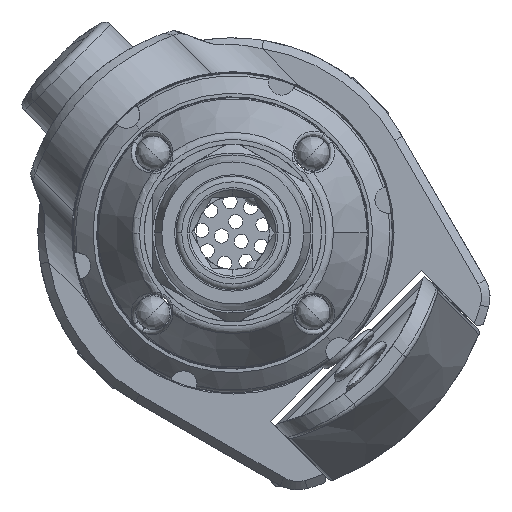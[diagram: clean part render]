
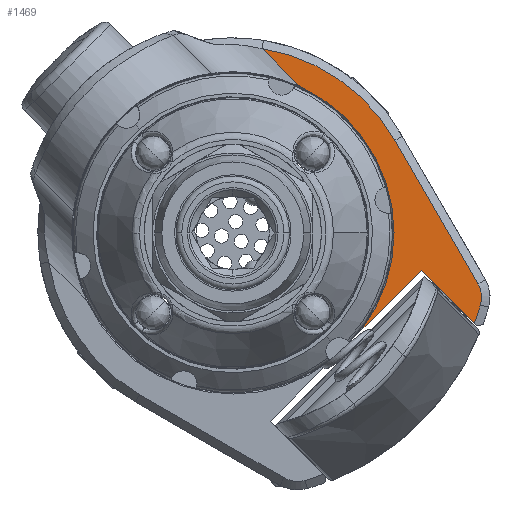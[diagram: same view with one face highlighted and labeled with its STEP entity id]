
A CAD part, left-side view. The second image highlights one B-rep face of the part: STEP entity #1469.
In plain terms, the highlighted planar face has unit normal (-1, 0, 0).
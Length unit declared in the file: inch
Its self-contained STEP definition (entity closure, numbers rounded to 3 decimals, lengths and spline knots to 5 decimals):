
#403 = VERTEX_POINT ( 'NONE', #14520 ) ;
#405 = VERTEX_POINT ( 'NONE', #14518 ) ;
#458 = AXIS2_PLACEMENT_3D ( 'NONE', #15694, #15696, #15695 ) ;
#957 = EDGE_CURVE ( 'NONE', #20558, #403, #15933, .T. ) ;
#958 = EDGE_CURVE ( 'NONE', #20555, #20554, #15937, .T. ) ;
#959 = EDGE_CURVE ( 'NONE', #20556, #20555, #4713, .T. ) ;
#960 = EDGE_CURVE ( 'NONE', #20554, #20553, #10686, .T. ) ;
#961 = EDGE_CURVE ( 'NONE', #20553, #20558, #4714, .T. ) ;
#962 = EDGE_CURVE ( 'NONE', #20570, #20556, #4715, .T. ) ;
#1469 = ADVANCED_FACE ( 'NONE', ( #7698 ), #15693, .T. ) ;
#2122 = CARTESIAN_POINT ( 'NONE',  ( 3.32101, -1.1218, -0.24366 ) ) ;
#2123 = CARTESIAN_POINT ( 'NONE',  ( 3.32101, -1.13077, -0.3177 ) ) ;
#2124 = CARTESIAN_POINT ( 'NONE',  ( 3.32101, -1.10885, -0.38363 ) ) ;
#2125 = CARTESIAN_POINT ( 'NONE',  ( 3.32101, -0.92179, -0.19671 ) ) ;
#2127 = CARTESIAN_POINT ( 'NONE',  ( 3.32101, -0.82946, 0.26225 ) ) ;
#2139 = CARTESIAN_POINT ( 'NONE',  ( 3.32101, -0.70985, -0.40881 ) ) ;
#4504 = EDGE_CURVE ( 'NONE', #403, #405, #19006, .T. ) ;
#4512 = EDGE_CURVE ( 'NONE', #405, #20570, #9471, .T. ) ;
#4713 = LINE ( 'NONE', #14411, #15936 ) ;
#4714 = LINE ( 'NONE', #14427, #15932 ) ;
#4715 = LINE ( 'NONE', #14410, #15929 ) ;
#6163 = ORIENTED_EDGE ( 'NONE', *, *, #959, .T. ) ;
#6164 = ORIENTED_EDGE ( 'NONE', *, *, #960, .T. ) ;
#6165 = ORIENTED_EDGE ( 'NONE', *, *, #958, .T. ) ;
#6166 = ORIENTED_EDGE ( 'NONE', *, *, #961, .T. ) ;
#6167 = ORIENTED_EDGE ( 'NONE', *, *, #957, .T. ) ;
#6168 = ORIENTED_EDGE ( 'NONE', *, *, #4512, .T. ) ;
#6169 = ORIENTED_EDGE ( 'NONE', *, *, #4504, .T. ) ;
#6170 = ORIENTED_EDGE ( 'NONE', *, *, #962, .T. ) ;
#6505 = EDGE_LOOP ( 'NONE', ( #6163, #6165, #6164, #6166, #6167, #6169, #6168, #6170 ) ) ;
#7698 = FACE_OUTER_BOUND ( 'NONE', #6505, .T. ) ;
#9471 = CIRCLE ( 'NONE', #9479, 0.5675 ) ;
#9476 = VECTOR ( 'NONE', #19927, 39.37008 ) ;
#9479 = AXIS2_PLACEMENT_3D ( 'NONE', #9666, #9667, #9668 ) ;
#9666 = CARTESIAN_POINT ( 'NONE',  ( 3.32101, -0.25882, -0.06438 ) ) ;
#9667 = DIRECTION ( 'NONE',  ( 1., 0., 0. ) ) ;
#9668 = DIRECTION ( 'NONE',  ( 0., -0.707, -0.707 ) ) ;
#10686 = CIRCLE ( 'NONE', #15935, 0.095 ) ;
#14348 = DIRECTION ( 'NONE',  ( 0., -0.707, -0.707 ) ) ;
#14354 = CARTESIAN_POINT ( 'NONE',  ( 3.32101, -0.25882, -0.06438 ) ) ;
#14357 = DIRECTION ( 'NONE',  ( 0., 0.5, 0.866 ) ) ;
#14362 = CARTESIAN_POINT ( 'NONE',  ( 3.32101, -1.03954, -0.29119 ) ) ;
#14387 = DIRECTION ( 'NONE',  ( 0., -0.707, -0.707 ) ) ;
#14390 = DIRECTION ( 'NONE',  ( 0., -0.707, 0.707 ) ) ;
#14392 = DIRECTION ( 'NONE',  ( -1., 0., 0. ) ) ;
#14402 = DIRECTION ( 'NONE',  ( 0., -0.707, -0.707 ) ) ;
#14403 = CARTESIAN_POINT ( 'NONE',  ( 3.32101, -0.25882, -0.06438 ) ) ;
#14405 = DIRECTION ( 'NONE',  ( -1., 0., 0. ) ) ;
#14406 = DIRECTION ( 'NONE',  ( -1., 0., 0. ) ) ;
#14410 = CARTESIAN_POINT ( 'NONE',  ( 3.32101, -0.39166, -0.72724 ) ) ;
#14411 = CARTESIAN_POINT ( 'NONE',  ( 3.32101, -0.92179, -0.19671 ) ) ;
#14424 = DIRECTION ( 'NONE',  ( 0., -0.707, -0.707 ) ) ;
#14427 = CARTESIAN_POINT ( 'NONE',  ( 3.32101, -0.82946, 0.26225 ) ) ;
#14518 = CARTESIAN_POINT ( 'NONE',  ( 3.32101, -0.49511, 0.45159 ) ) ;
#14520 = CARTESIAN_POINT ( 'NONE',  ( 3.32101, -0.36155, 0.58504 ) ) ;
#15693 = PLANE ( 'NONE',  #458 ) ;
#15694 = CARTESIAN_POINT ( 'NONE',  ( 3.32101, -0.25882, -0.06438 ) ) ;
#15695 = DIRECTION ( 'NONE',  ( 0., -0.707, -0.707 ) ) ;
#15696 = DIRECTION ( 'NONE',  ( -1., 0., 0. ) ) ;
#15929 = VECTOR ( 'NONE', #14390, 39.37008 ) ;
#15931 = AXIS2_PLACEMENT_3D ( 'NONE', #14354, #14406, #14402 ) ;
#15932 = VECTOR ( 'NONE', #14357, 39.37008 ) ;
#15933 = CIRCLE ( 'NONE', #15931, 0.6575 ) ;
#15935 = AXIS2_PLACEMENT_3D ( 'NONE', #14362, #14392, #14387 ) ;
#15936 = VECTOR ( 'NONE', #14348, 39.37008 ) ;
#15937 = CIRCLE ( 'NONE', #15949, 0.908 ) ;
#15949 = AXIS2_PLACEMENT_3D ( 'NONE', #14403, #14405, #14424 ) ;
#19006 = LINE ( 'NONE', #19926, #9476 ) ;
#19926 = CARTESIAN_POINT ( 'NONE',  ( 3.32101, -0.63486, 0.31194 ) ) ;
#19927 = DIRECTION ( 'NONE',  ( 0., -0.707, -0.707 ) ) ;
#20553 = VERTEX_POINT ( 'NONE', #2122 ) ;
#20554 = VERTEX_POINT ( 'NONE', #2123 ) ;
#20555 = VERTEX_POINT ( 'NONE', #2124 ) ;
#20556 = VERTEX_POINT ( 'NONE', #2125 ) ;
#20558 = VERTEX_POINT ( 'NONE', #2127 ) ;
#20570 = VERTEX_POINT ( 'NONE', #2139 ) ;
